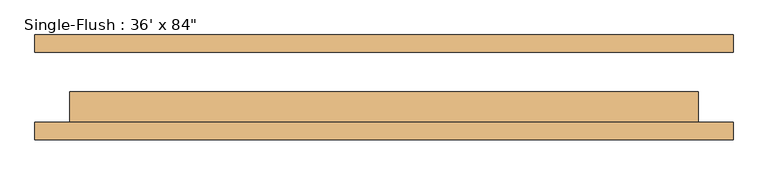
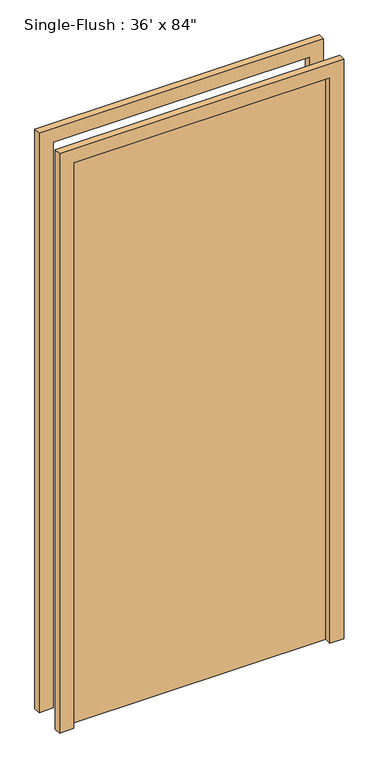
"""IFC4 building model written with IfcOpenShell, lengths in millimetres: door geometry."""

from ifc_helpers import new_model, si_unit, frame, origin, origin_with_axes, place, context, project, spatial, polyline, outline, extrude, source, transform, mapped, element, save


def door_1bfde783(model_context):
    return source(origin(), model_context, "Body", "SweptSolid", [
        extrude(outline(polyline([(2184.4, -508.0), (0.0, -508.0), (0.0, -457.2), (2133.6, -457.2), (2133.6, 457.2), (0.0, 457.2), (0.0, 508.0), (2184.4, 508.0), (2184.4, -508.0)])), frame((0.0, -76.2, 0.0), z_axis=(0.0, 1.0, 0.0), x_axis=(0.0, 0.0, 1.0)), (0.0, 0.0, 1.0), 25.4),
        extrude(outline(polyline([(2184.4, 508.0), (2184.4, -508.0), (0.0, -508.0), (0.0, -457.2), (2133.6, -457.2), (2133.6, 457.2), (0.0, 457.2), (0.0, 508.0), (2184.4, 508.0)])), frame((0.0, 50.8, 0.0), z_axis=(0.0, 1.0, 0.0), x_axis=(0.0, 0.0, 1.0)), (0.0, 0.0, 1.0), 25.4),
        extrude(outline(polyline([(457.2, -6.35), (457.2, -50.8), (-457.2, -50.8), (-457.2, -6.35), (457.2, -6.35)])), origin_with_axes(), (0.0, 0.0, 1.0), 2133.6),
    ])


if __name__ == "__main__":
    model = new_model("IFC4")
    model_context = context("Model", 3, world=origin())
    ifc_project = project(units=[si_unit("LENGTHUNIT", "METRE", prefix="MILLI")], contexts=[model_context])
    site = spatial("IfcSite", under=ifc_project)
    building = spatial("IfcBuilding", under=site)
    placement = place(None, origin())
    door_shape = door_1bfde783(model_context)
    element("IfcDoor", 1, ObjectType="Single-Flush : 36' x 84\"", at=placement, inside=building, context=model_context, shape_type="MappedRepresentation", body=[
        mapped(door_shape, transform((0.0, 0.0, 0.0), x_axis=(1.0, 0.0, 0.0), y_axis=(0.0, 1.0, 0.0), z_axis=(0.0, 0.0, 1.0))),
    ])
    save(model, "model.ifc")
